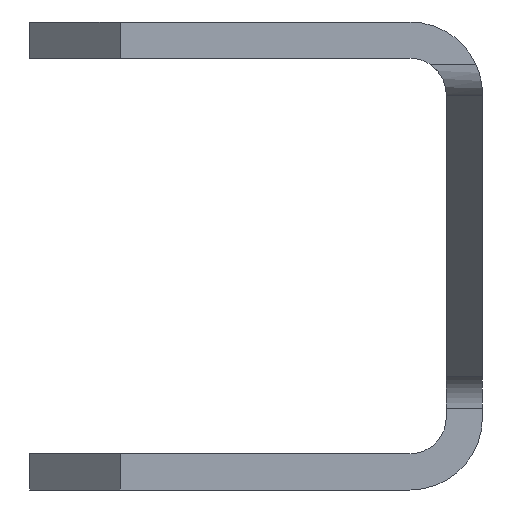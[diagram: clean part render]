
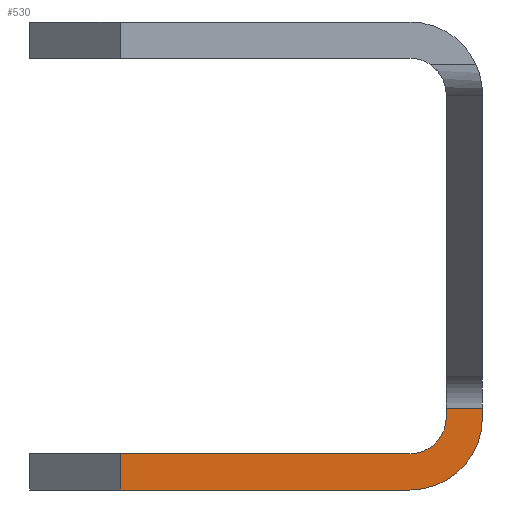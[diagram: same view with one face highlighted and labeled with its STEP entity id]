
A CAD part, left-side view. The second image highlights one B-rep face of the part: STEP entity #530.
In plain terms, the highlighted planar face has unit normal (-1, 0, 0).
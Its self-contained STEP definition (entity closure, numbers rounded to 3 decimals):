
#8 = CARTESIAN_POINT ( 'NONE',  ( -237.5, -6.3, -5.046 ) ) ;
#14 = CARTESIAN_POINT ( 'NONE',  ( -237.5, -7.5, -5.046 ) ) ;
#19 = CARTESIAN_POINT ( 'NONE',  ( -237.5, 4.5, -6.55 ) ) ;
#20 = CARTESIAN_POINT ( 'NONE',  ( -237.5, 4.5, -7.75 ) ) ;
#62 = VECTOR ( 'NONE', #851, 1000. ) ;
#72 = AXIS2_PLACEMENT_3D ( 'NONE', #842, #841, #840 ) ;
#80 = VECTOR ( 'NONE', #893, 1000. ) ;
#84 = VECTOR ( 'NONE', #905, 1000. ) ;
#278 = VECTOR ( 'NONE', #1385, 1000. ) ;
#283 = AXIS2_PLACEMENT_3D ( 'NONE', #1068, #1406, #1341 ) ;
#316 = VECTOR ( 'NONE', #1321, 1000. ) ;
#347 = AXIS2_PLACEMENT_3D ( 'NONE', #1102, #1104, #1042 ) ;
#354 = FACE_OUTER_BOUND ( 'NONE', #1260, .T. ) ;
#445 = VECTOR ( 'NONE', #770, 1000. ) ;
#485 = EDGE_CURVE ( 'NONE', #2078, #1986, #1314, .T. ) ;
#530 = ADVANCED_FACE ( 'NONE', ( #354 ), #1106, .F. ) ;
#550 = EDGE_CURVE ( 'NONE', #2076, #1953, #1093, .T. ) ;
#554 = EDGE_CURVE ( 'NONE', #1986, #1953, #1807, .T. ) ;
#611 = CIRCLE ( 'NONE', #72, 1.2 ) ;
#770 = DIRECTION ( 'NONE',  ( 0., 1., 0. ) ) ;
#771 = CARTESIAN_POINT ( 'NONE',  ( -237.5, 7.5, -5.046 ) ) ;
#772 = LINE ( 'NONE', #771, #445 ) ;
#840 = DIRECTION ( 'NONE',  ( 0., 0., -1. ) ) ;
#841 = DIRECTION ( 'NONE',  ( -1., 0., 0. ) ) ;
#842 = CARTESIAN_POINT ( 'NONE',  ( -237.5, -5.1, -5.35 ) ) ;
#851 = DIRECTION ( 'NONE',  ( 0., 0., -1. ) ) ;
#852 = CARTESIAN_POINT ( 'NONE',  ( -237.5, -6.3, 7.75 ) ) ;
#853 = LINE ( 'NONE', #852, #62 ) ;
#893 = DIRECTION ( 'NONE',  ( 0., 1., 0. ) ) ;
#894 = CARTESIAN_POINT ( 'NONE',  ( -237.5, 7.5, -6.55 ) ) ;
#895 = LINE ( 'NONE', #894, #80 ) ;
#905 = DIRECTION ( 'NONE',  ( 0., 0., -1. ) ) ;
#906 = CARTESIAN_POINT ( 'NONE',  ( -237.5, 4.5, -4.35 ) ) ;
#907 = LINE ( 'NONE', #906, #84 ) ;
#1014 = CARTESIAN_POINT ( 'NONE',  ( -237.5, -7.5, -4.35 ) ) ;
#1042 = DIRECTION ( 'NONE',  ( 0., 0., -1. ) ) ;
#1068 = CARTESIAN_POINT ( 'NONE',  ( -237.5, -5.1, -5.35 ) ) ;
#1093 = LINE ( 'NONE', #1014, #278 ) ;
#1102 = CARTESIAN_POINT ( 'NONE',  ( -237.5, 7.5, -4.35 ) ) ;
#1104 = DIRECTION ( 'NONE',  ( 1., 0., 0. ) ) ;
#1106 = PLANE ( 'NONE',  #347 ) ;
#1260 = EDGE_LOOP ( 'NONE', ( #2137, #1946, #2295, #2058, #1958, #2067, #2064, #2173 ) ) ;
#1314 = LINE ( 'NONE', #1324, #316 ) ;
#1321 = DIRECTION ( 'NONE',  ( 0., -1., 0. ) ) ;
#1324 = CARTESIAN_POINT ( 'NONE',  ( -237.5, 7.5, -7.75 ) ) ;
#1341 = DIRECTION ( 'NONE',  ( 0., 0., -1. ) ) ;
#1385 = DIRECTION ( 'NONE',  ( 0., 0., -1. ) ) ;
#1406 = DIRECTION ( 'NONE',  ( -1., 0., 0. ) ) ;
#1554 = CARTESIAN_POINT ( 'NONE',  ( -237.5, -5.1, -6.55 ) ) ;
#1558 = CARTESIAN_POINT ( 'NONE',  ( -237.5, -5.1, -7.75 ) ) ;
#1565 = CARTESIAN_POINT ( 'NONE',  ( -237.5, -7.5, -5.35 ) ) ;
#1777 = CARTESIAN_POINT ( 'NONE',  ( -237.5, -6.3, -5.35 ) ) ;
#1807 = CIRCLE ( 'NONE', #283, 2.4 ) ;
#1946 = ORIENTED_EDGE ( 'NONE', *, *, #2385, .T. ) ;
#1953 = VERTEX_POINT ( 'NONE', #1565 ) ;
#1958 = ORIENTED_EDGE ( 'NONE', *, *, #550, .F. ) ;
#1986 = VERTEX_POINT ( 'NONE', #1558 ) ;
#2016 = VERTEX_POINT ( 'NONE', #1554 ) ;
#2058 = ORIENTED_EDGE ( 'NONE', *, *, #554, .T. ) ;
#2064 = ORIENTED_EDGE ( 'NONE', *, *, #2403, .T. ) ;
#2066 = VERTEX_POINT ( 'NONE', #8 ) ;
#2067 = ORIENTED_EDGE ( 'NONE', *, *, #2430, .T. ) ;
#2076 = VERTEX_POINT ( 'NONE', #14 ) ;
#2078 = VERTEX_POINT ( 'NONE', #20 ) ;
#2091 = VERTEX_POINT ( 'NONE', #19 ) ;
#2137 = ORIENTED_EDGE ( 'NONE', *, *, #2389, .T. ) ;
#2153 = VERTEX_POINT ( 'NONE', #1777 ) ;
#2173 = ORIENTED_EDGE ( 'NONE', *, *, #2407, .F. ) ;
#2295 = ORIENTED_EDGE ( 'NONE', *, *, #485, .T. ) ;
#2385 = EDGE_CURVE ( 'NONE', #2091, #2078, #907, .T. ) ;
#2389 = EDGE_CURVE ( 'NONE', #2016, #2091, #895, .T. ) ;
#2403 = EDGE_CURVE ( 'NONE', #2066, #2153, #853, .T. ) ;
#2407 = EDGE_CURVE ( 'NONE', #2016, #2153, #611, .T. ) ;
#2430 = EDGE_CURVE ( 'NONE', #2076, #2066, #772, .T. ) ;
